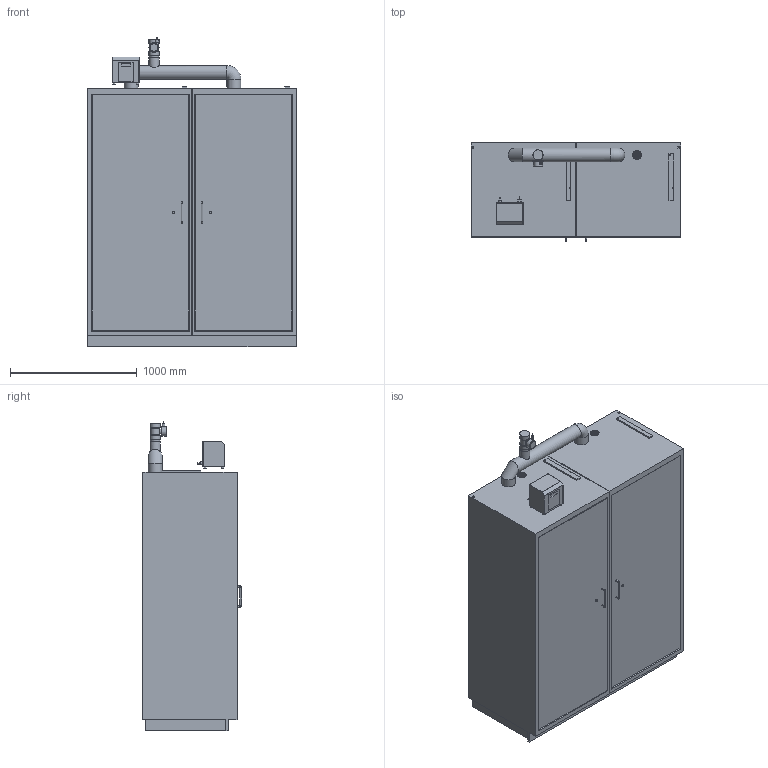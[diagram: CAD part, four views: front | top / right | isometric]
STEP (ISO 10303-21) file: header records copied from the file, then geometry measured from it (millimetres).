
FILE_DESCRIPTION(/* description */ ('Unknown'),/* implementation_level */ '2;1');
FILE_NAME(/* name */ 'SUPPLY COMPACT XXL_D00107610',/* time_stamp */ '2020-08-31T13:28:53+02:00',/* author */ ('Unknown'),/* organization */ ('Unknown'),/* preprocessor_version */ 'ST-DEVELOPER v16.7',/* originating_system */ 'Solid Edge',/* authorisation */ 'Unknown');
FILE_SCHEMA (('AUTOMOTIVE_DESIGN {1 0 10303 214 3 1 1}'));
Length unit declared in the file: millimetre
Products named in the file (1): SUPPLY COMPACT XXL_D00107610
Bounding box: 1654 x 781.99 x 2447.92 mm (x, y, z)
Volume: 2435535747.7 mm3; surface area: 14525590.3 mm2
Topology: 2 solids, 2 shells, 285 faces, 676 edges, 436 vertices
Faces by surface type: plane 172, cylinder 91, sphere 8, torus 8, bspline 3, cone 3
Full cylindrical faces by diameter (mm): 6 x3, 6.2 x2, 7.5 x4, 12 x6, 18 x6, 20 x1, 22 x3, 45 x1, 70 x1, 72 x1, 75 x1, 80 x3, 81 x1, 110 x3
Entity records: 9868 total; most frequent: CARTESIAN_POINT 1474, DIRECTION 1339, ORIENTED_EDGE 1196, EDGE_CURVE 598, AXIS2_PLACEMENT_3D 465, VERTEX_POINT 413, LINE 409, VECTOR 409
